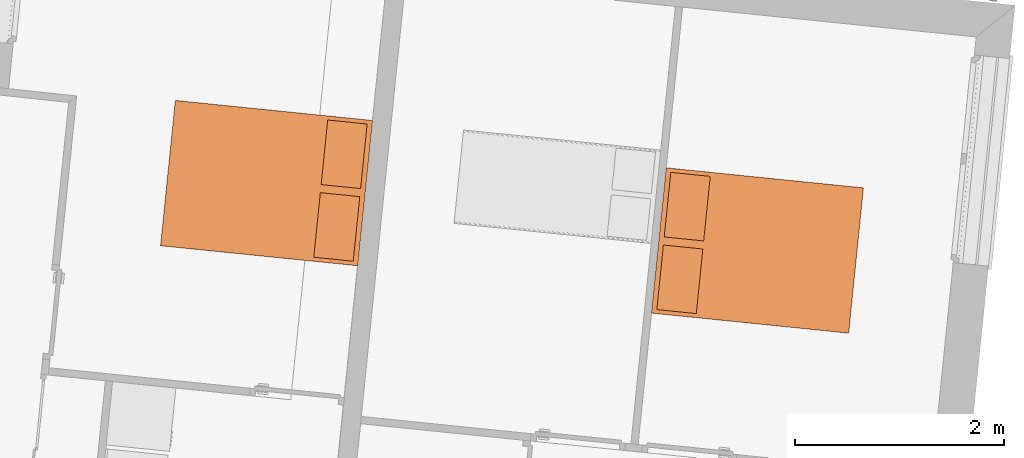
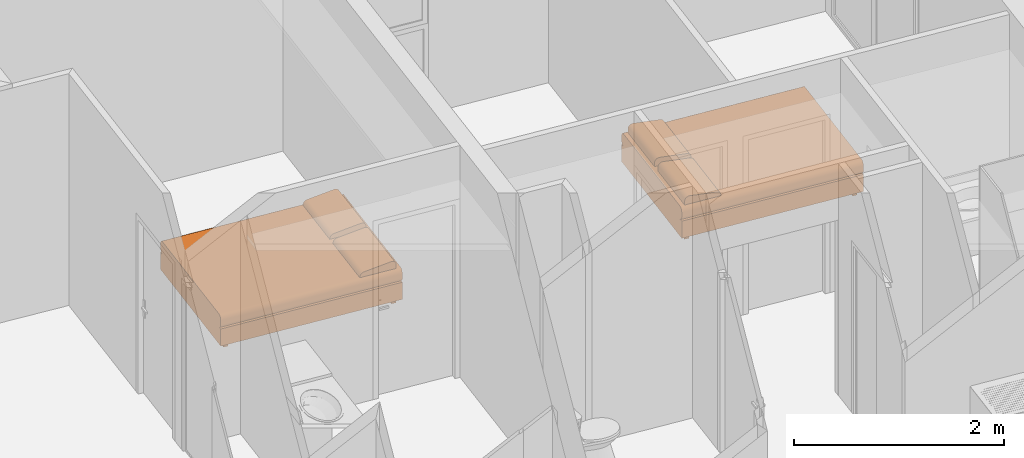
# One storey, part 160 of 164: 2 proxies.
"""IFC2X3 building model written with IfcOpenShell, lengths in millimetres."""

from ifc_helpers import new_model, entity, si_unit, converted_unit, derived_unit, money_unit, direction, frame, origin_with_axes, place, context, subcontext, project, spatial, open_shell, faceted_brep, surface_model, source, transform, mapped, type_object, element, save


model = new_model("IFC2X3")

# Units and contexts
model_context = context("Model", 3, precision=0.01, world=origin_with_axes(), true_north=direction((0.0, 1.0)))
body_context = subcontext(model_context, "Body", "Model", "MODEL_VIEW")
ifc_project = project(units=[si_unit("LENGTHUNIT", "METRE", prefix="MILLI"), si_unit("AREAUNIT", "SQUARE_METRE"), si_unit("VOLUMEUNIT", "CUBIC_METRE"), converted_unit("PLANEANGLEUNIT", "DEGREE", entity("IfcPlaneAngleMeasure", 0.0174532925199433), si_unit("PLANEANGLEUNIT", "RADIAN"), dimensions=[0, 0, 0, 0, 0, 0, 0]), money_unit("USD"), converted_unit("TIMEUNIT", "Year", entity("IfcTimeMeasure", 31557600.0), si_unit("TIMEUNIT", "SECOND"), dimensions=[0, 0, 1, 0, 0, 0, 0]), si_unit("MASSUNIT", "GRAM", prefix="KILO"), si_unit("THERMODYNAMICTEMPERATUREUNIT", "DEGREE_CELSIUS"), si_unit("LUMINOUSINTENSITYUNIT", "LUMEN"), si_unit("ENERGYUNIT", "JOULE", prefix="MEGA"), derived_unit("THERMALCONDUCTANCEUNIT", [(si_unit("POWERUNIT", "WATT"), 1), (si_unit("LENGTHUNIT", "METRE"), -1), (si_unit("THERMODYNAMICTEMPERATUREUNIT", "KELVIN"), -1)]), derived_unit("SPECIFICHEATCAPACITYUNIT", [(si_unit("ENERGYUNIT", "JOULE"), 1), (si_unit("MASSUNIT", "GRAM", prefix="KILO"), -1), (si_unit("THERMODYNAMICTEMPERATUREUNIT", "KELVIN"), -1)]), derived_unit("MASSDENSITYUNIT", [(si_unit("MASSUNIT", "GRAM", prefix="KILO"), 1), (si_unit("VOLUMEUNIT", "CUBIC_METRE"), -1)])], contexts=[model_context])

# Site, building, storey
site_placement = place(None, origin_with_axes())
site = spatial("IfcSite", under=ifc_project, at=site_placement, Name="Site", CompositionType="ELEMENT")
building_placement = place(site_placement, origin_with_axes())
building = spatial("IfcBuilding", under=site, at=building_placement, Name="Bâtiment", CompositionType="ELEMENT")
storey_placement = place(building_placement, frame((0.0, 0.0, 5750.0), z_axis=(0.0, 0.0, 1.0), x_axis=(1.0, 0.0, 0.0)))
storey = spatial("IfcBuildingStorey", under=building, at=storey_placement, Name="Etage1", CompositionType="ELEMENT", Elevation=5750.0)

# Proxies
building_element_proxy_type = type_object("IfcBuildingElementProxyType", PredefinedType="NOTDEFINED")
shared_shape_1 = source(origin_with_axes(), body_context, "Body", "SurfaceModel", [
    faceted_brep([(-622.2222222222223, -95.0, 0.0), (-661.1111111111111, -95.0, 0.0), (-661.1111111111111, -47.5, 0.0), (-622.2222222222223, -47.5, 0.0), (-622.2222222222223, -95.0, 50.0), (-661.1111111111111, -95.0, 50.0), (-661.1111111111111, -47.5, 50.0), (-622.2222222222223, -47.5, 50.0)], [[[0, 1, 2, 3]], [[1, 0, 4, 5]], [[2, 1, 5, 6]], [[3, 2, 6, 7]], [[0, 3, 7, 4]], [[5, 4, 7, 6]]]),
    faceted_brep([(-622.2222222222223, -1852.5, 0.0), (-661.1111111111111, -1852.5, 0.0), (-661.1111111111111, -1805.0, 0.0), (-622.2222222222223, -1805.0, 0.0), (-622.2222222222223, -1852.5, 50.0), (-661.1111111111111, -1852.5, 50.0), (-661.1111111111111, -1805.0, 50.0), (-622.2222222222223, -1805.0, 50.0)], [[[0, 1, 2, 3]], [[1, 0, 4, 5]], [[2, 1, 5, 6]], [[3, 2, 6, 7]], [[0, 3, 7, 4]], [[5, 4, 7, 6]]]),
    faceted_brep([(661.111111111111, -1852.5, 0.0), (622.2222222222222, -1852.5, 0.0), (622.2222222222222, -1805.0, 0.0), (661.111111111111, -1805.0, 0.0), (661.111111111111, -1852.5, 50.0), (622.2222222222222, -1852.5, 50.0), (622.2222222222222, -1805.0, 50.0), (661.111111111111, -1805.0, 50.0)], [[[0, 1, 2, 3]], [[1, 0, 4, 5]], [[2, 1, 5, 6]], [[3, 2, 6, 7]], [[0, 3, 7, 4]], [[5, 4, 7, 6]]]),
    faceted_brep([(661.111111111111, -94.99999999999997, 0.0), (622.2222222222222, -94.99999999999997, 0.0), (622.2222222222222, -47.49999999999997, 0.0), (661.111111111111, -47.49999999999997, 0.0), (661.111111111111, -94.99999999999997, 50.0), (622.2222222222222, -94.99999999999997, 50.0), (622.2222222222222, -47.49999999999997, 50.0), (661.111111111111, -47.49999999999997, 50.0)], [[[0, 1, 2, 3]], [[1, 0, 4, 5]], [[2, 1, 5, 6]], [[3, 2, 6, 7]], [[0, 3, 7, 4]], [[5, 4, 7, 6]]]),
    faceted_brep([(-700.0, 0.0, 50.0), (700.0, 0.0, 50.0), (700.0, -1900.0, 50.00000000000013), (-700.0, -1900.0, 50.00000000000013), (-700.0, 0.0, 250.0), (700.0, 0.0, 250.0), (700.0, -1900.0, 250.0000000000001), (-700.0, -1900.0, 250.0000000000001)], [[[0, 1, 2, 3]], [[0, 4, 5, 1]], [[1, 5, 6, 2]], [[3, 2, 6, 7]], [[4, 0, 3, 7]], [[5, 4, 7, 6]]]),
    surface_model("IfcShellBasedSurfaceModel", [(661.1111111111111, 0.0, 250.0), (667.8640957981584, 0.0, 250.7596123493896), (667.8640957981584, -1900.0, 250.7596123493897), (661.1111111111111, -1900.0, 250.0000000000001), (-661.1111111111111, 0.0, 250.0), (-667.8640957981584, 0.0, 250.7596123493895), (-674.4118944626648, 0.0, 253.0153689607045), (-680.5555555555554, 0.0, 256.698729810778), (-686.1084070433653, 0.0, 261.6977778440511), (-690.9017283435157, 0.0, 267.860619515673), (-694.7898768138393, 0.0, 275.0), (-697.654713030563, 0.0, 282.8989928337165), (-699.4091903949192, 0.0, 291.3175911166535), (-700.0, 0.0, 300.0000000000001), (-700.0000000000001, 0.0, 350.0), (-699.4091903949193, 0.0, 358.6824088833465), (-697.654713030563, 0.0, 367.1010071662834), (-694.7898768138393, 0.0, 375.0), (-690.9017283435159, 0.0, 382.139380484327), (-686.1084070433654, 0.0, 388.3022221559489), (-680.5555555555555, 0.0, 393.301270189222), (-674.4118944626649, 0.0, 396.9846310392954), (-667.8640957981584, 0.0, 399.2403876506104), (-661.1111111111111, 0.0, 400.0), (661.111111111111, 0.0, 400.0000000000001), (667.8640957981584, 0.0, 399.2403876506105), (674.4118944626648, 0.0, 396.9846310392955), (680.5555555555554, 0.0, 393.301270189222), (686.1084070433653, 0.0, 388.3022221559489), (690.9017283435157, 0.0, 382.139380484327), (694.7898768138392, 0.0, 375.0000000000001), (697.654713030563, 0.0, 367.1010071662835), (699.4091903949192, 0.0, 358.6824088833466), (700.0, 0.0, 350.0000000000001), (700.0, 0.0, 300.0000000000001), (699.4091903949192, 0.0, 291.3175911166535), (697.654713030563, 0.0, 282.8989928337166), (694.7898768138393, 0.0, 275.0), (690.9017283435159, 0.0, 267.8606195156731), (686.1084070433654, 0.0, 261.6977778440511), (680.5555555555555, 0.0, 256.698729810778), (674.4118944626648, 0.0, 253.0153689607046), (674.4118944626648, -1900.0, 253.0153689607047), (-661.1111111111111, -1900.0, 250.0000000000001), (680.5555555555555, -1900.0, 256.6987298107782), (686.1084070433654, -1900.0, 261.6977778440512), (690.9017283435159, -1900.0, 267.8606195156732), (694.7898768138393, -1900.0, 275.0000000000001), (697.654713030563, -1900.0, 282.8989928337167), (699.4091903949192, -1900.0, 291.3175911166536), (700.0, -1900.0, 300.0000000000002), (700.0, -1900.0, 350.0000000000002), (699.4091903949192, -1900.0, 358.6824088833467), (697.654713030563, -1900.0, 367.1010071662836), (694.7898768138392, -1900.0, 375.0000000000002), (690.9017283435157, -1900.0, 382.1393804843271), (686.1084070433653, -1900.0, 388.302222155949), (680.5555555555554, -1900.0, 393.3012701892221), (674.4118944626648, -1900.0, 396.9846310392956), (667.8640957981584, -1900.0, 399.2403876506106), (661.111111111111, -1900.0, 400.0000000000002), (-661.1111111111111, -1900.0, 400.0000000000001), (-667.8640957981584, -1900.0, 399.2403876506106), (-674.4118944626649, -1900.0, 396.9846310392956), (-680.5555555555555, -1900.0, 393.3012701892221), (-686.1084070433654, -1900.0, 388.302222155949), (-690.9017283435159, -1900.0, 382.1393804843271), (-694.7898768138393, -1900.0, 375.0000000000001), (-697.654713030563, -1900.0, 367.1010071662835), (-699.4091903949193, -1900.0, 358.6824088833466), (-700.0000000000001, -1900.0, 350.0000000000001), (-700.0, -1900.0, 300.0000000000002), (-699.4091903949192, -1900.0, 291.3175911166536), (-697.654713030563, -1900.0, 282.8989928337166), (-694.7898768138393, -1900.0, 275.0000000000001), (-690.9017283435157, -1900.0, 267.8606195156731), (-686.1084070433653, -1900.0, 261.6977778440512), (-680.5555555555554, -1900.0, 256.6987298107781), (-674.4118944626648, -1900.0, 253.0153689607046), (-667.8640957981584, -1900.0, 250.7596123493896)], [open_shell([[[0, 1, 2, 3]], [[4, 5, 6, 7, 8, 9, 10, 11, 12, 13, 14, 15, 16, 17, 18, 19, 20, 21, 22, 23, 24, 25, 26, 27, 28, 29, 30, 31, 32, 33, 34, 35, 36, 37, 38, 39, 40, 41, 1, 0]], [[1, 41, 42, 2]], [[43, 3, 2, 42, 44, 45, 46, 47, 48, 49, 50, 51, 52, 53, 54, 55, 56, 57, 58, 59, 60, 61, 62, 63, 64, 65, 66, 67, 68, 69, 70, 71, 72, 73, 74, 75, 76, 77, 78, 79]], [[5, 4, 43, 79]], [[6, 5, 79, 78]], [[7, 6, 78, 77]], [[8, 7, 77, 76]], [[9, 8, 76, 75]], [[10, 9, 75, 74]], [[11, 10, 74, 73]], [[12, 11, 73, 72]], [[13, 12, 72, 71]], [[14, 13, 71, 70]], [[15, 14, 70, 69]], [[16, 15, 69, 68]], [[17, 16, 68, 67]], [[18, 17, 67, 66]], [[19, 18, 66, 65]], [[20, 19, 65, 64]], [[21, 20, 64, 63]], [[22, 21, 63, 62]], [[23, 22, 62, 61]], [[24, 23, 61, 60]], [[25, 24, 60, 59]], [[26, 25, 59, 58]], [[27, 26, 58, 57]], [[28, 27, 57, 56]], [[29, 28, 56, 55]], [[30, 29, 55, 54]], [[31, 30, 54, 53]], [[32, 31, 53, 52]], [[33, 32, 52, 51]], [[34, 33, 51, 50]], [[35, 34, 50, 49]], [[36, 35, 49, 48]], [[37, 36, 48, 47]], [[38, 37, 47, 46]], [[39, 38, 46, 45]], [[40, 39, 45, 44]], [[41, 40, 44, 42]]])]),
    faceted_brep([(38.88888888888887, -47.49999999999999, 400.0), (38.88888888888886, -47.49999999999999, 443.4), (661.1111111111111, -47.50000000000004, 443.4000000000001), (661.1111111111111, -47.50000000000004, 400.0000000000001), (38.88888888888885, -427.5, 400.0), (38.88888888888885, -427.6960812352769, 408.695442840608), (38.88888888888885, -426.4675711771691, 417.2966661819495), (38.88888888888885, -423.8511300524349, 425.5469991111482), (38.88888888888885, -419.9248356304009, 433.2002417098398), (38.88888888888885, -414.8058532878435, 440.0280119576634), (38.88888888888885, -408.6469396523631, 445.826560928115), (38.88888888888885, -401.6318841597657, 450.4228529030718), (38.88888888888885, -393.9700245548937, 453.6797289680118), (38.88888888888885, -385.89, 455.5), (38.88888888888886, -100.89, 493.0000000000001), (38.88888888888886, -92.85488048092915, 493.3370808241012), (38.88888888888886, -84.88093291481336, 492.2422169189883), (38.88888888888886, -77.19681007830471, 489.7468034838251), (38.88888888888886, -70.02285403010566, 485.922396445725), (38.88888888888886, -63.56477780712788, 480.878660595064), (38.88888888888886, -58.00776660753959, 474.7602249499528), (38.88888888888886, -53.51116760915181, 467.7425355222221), (38.88888888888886, -50.20392069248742, 460.0268244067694), (38.88888888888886, -48.18086109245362, 451.834339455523), (661.1111111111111, -48.18086109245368, 451.8343394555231), (661.1111111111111, -50.20392069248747, 460.0268244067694), (661.1111111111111, -53.51116760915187, 467.7425355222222), (661.1111111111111, -58.00776660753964, 474.7602249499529), (661.1111111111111, -63.56477780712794, 480.878660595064), (661.1111111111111, -70.02285403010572, 485.922396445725), (661.1111111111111, -77.19681007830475, 489.7468034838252), (661.1111111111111, -84.88093291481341, 492.2422169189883), (661.1111111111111, -92.85488048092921, 493.3370808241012), (661.1111111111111, -100.8900000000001, 493.0000000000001), (661.1111111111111, -385.89, 455.5000000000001), (661.1111111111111, -393.9700245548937, 453.6797289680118), (661.1111111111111, -401.6318841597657, 450.4228529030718), (661.1111111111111, -408.6469396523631, 445.826560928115), (661.1111111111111, -414.8058532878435, 440.0280119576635), (661.1111111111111, -419.924835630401, 433.2002417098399), (661.1111111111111, -423.8511300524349, 425.5469991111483), (661.1111111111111, -426.4675711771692, 417.2966661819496), (661.1111111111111, -427.6960812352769, 408.6954428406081), (661.1111111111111, -427.5, 400.0000000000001)], [[[0, 1, 2, 3]], [[0, 4, 5, 6, 7, 8, 9, 10, 11, 12, 13, 14, 15, 16, 17, 18, 19, 20, 21, 22, 23, 1]], [[1, 23, 24, 2]], [[3, 2, 24, 25, 26, 27, 28, 29, 30, 31, 32, 33, 34, 35, 36, 37, 38, 39, 40, 41, 42, 43]], [[4, 0, 3, 43]], [[5, 4, 43, 42]], [[6, 5, 42, 41]], [[7, 6, 41, 40]], [[8, 7, 40, 39]], [[9, 8, 39, 38]], [[10, 9, 38, 37]], [[11, 10, 37, 36]], [[12, 11, 36, 35]], [[13, 12, 35, 34]], [[14, 13, 34, 33]], [[15, 14, 33, 32]], [[16, 15, 32, 31]], [[17, 16, 31, 30]], [[18, 17, 30, 29]], [[19, 18, 29, 28]], [[20, 19, 28, 27]], [[21, 20, 27, 26]], [[22, 21, 26, 25]], [[23, 22, 25, 24]]]),
    faceted_brep([(-661.1111111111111, -47.49999999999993, 399.9999999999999), (-661.1111111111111, -47.49999999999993, 443.4), (-38.88888888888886, -47.49999999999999, 443.4), (-38.88888888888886, -47.49999999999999, 400.0), (-661.1111111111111, -427.4999999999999, 399.9999999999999), (-661.1111111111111, -427.6960812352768, 408.6954428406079), (-661.1111111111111, -426.4675711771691, 417.2966661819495), (-661.1111111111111, -423.8511300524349, 425.5469991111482), (-661.1111111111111, -419.9248356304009, 433.2002417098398), (-661.1111111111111, -414.8058532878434, 440.0280119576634), (-661.1111111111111, -408.646939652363, 445.8265609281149), (-661.1111111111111, -401.6318841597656, 450.4228529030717), (-661.1111111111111, -393.9700245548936, 453.6797289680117), (-661.1111111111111, -385.8899999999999, 455.4999999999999), (-661.1111111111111, -100.89, 493.0), (-661.1111111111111, -92.8548804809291, 493.3370808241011), (-661.1111111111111, -84.8809329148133, 492.2422169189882), (-661.1111111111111, -77.19681007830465, 489.7468034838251), (-661.1111111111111, -70.0228540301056, 485.9223964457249), (-661.1111111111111, -63.56477780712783, 480.8786605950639), (-661.1111111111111, -58.00776660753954, 474.7602249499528), (-661.1111111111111, -53.51116760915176, 467.7425355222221), (-661.1111111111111, -50.20392069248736, 460.0268244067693), (-661.1111111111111, -48.18086109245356, 451.834339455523), (-38.88888888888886, -48.18086109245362, 451.834339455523), (-38.88888888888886, -50.20392069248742, 460.0268244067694), (-38.88888888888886, -53.51116760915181, 467.7425355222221), (-38.88888888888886, -58.00776660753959, 474.7602249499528), (-38.88888888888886, -63.56477780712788, 480.878660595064), (-38.88888888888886, -70.02285403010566, 485.922396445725), (-38.88888888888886, -77.19681007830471, 489.7468034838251), (-38.88888888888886, -84.88093291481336, 492.2422169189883), (-38.88888888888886, -92.85488048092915, 493.3370808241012), (-38.88888888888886, -100.89, 493.0000000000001), (-38.88888888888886, -385.8899999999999, 455.5), (-38.88888888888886, -393.9700245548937, 453.6797289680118), (-38.88888888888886, -401.6318841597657, 450.4228529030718), (-38.88888888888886, -408.6469396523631, 445.826560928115), (-38.88888888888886, -414.8058532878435, 440.0280119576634), (-38.88888888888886, -419.9248356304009, 433.2002417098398), (-38.88888888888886, -423.8511300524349, 425.5469991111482), (-38.88888888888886, -426.4675711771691, 417.2966661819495), (-38.88888888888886, -427.6960812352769, 408.695442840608), (-38.88888888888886, -427.4999999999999, 400.0)], [[[0, 1, 2, 3]], [[0, 4, 5, 6, 7, 8, 9, 10, 11, 12, 13, 14, 15, 16, 17, 18, 19, 20, 21, 22, 23, 1]], [[1, 23, 24, 2]], [[3, 2, 24, 25, 26, 27, 28, 29, 30, 31, 32, 33, 34, 35, 36, 37, 38, 39, 40, 41, 42, 43]], [[4, 0, 3, 43]], [[5, 4, 43, 42]], [[6, 5, 42, 41]], [[7, 6, 41, 40]], [[8, 7, 40, 39]], [[9, 8, 39, 38]], [[10, 9, 38, 37]], [[11, 10, 37, 36]], [[12, 11, 36, 35]], [[13, 12, 35, 34]], [[14, 13, 34, 33]], [[15, 14, 33, 32]], [[16, 15, 32, 31]], [[17, 16, 31, 30]], [[18, 17, 30, 29]], [[19, 18, 29, 28]], [[20, 19, 28, 27]], [[21, 20, 27, 26]], [[22, 21, 26, 25]], [[23, 22, 25, 24]]]),
])
proxy_1_placement = place(storey_placement, frame((2233952.513834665, -608036.7904607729, 0.0), z_axis=(0.0, 0.0, 1.0), x_axis=(-0.1011033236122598, -0.9948759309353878, 0.0)))
element("IfcBuildingElementProxy", 1, at=proxy_1_placement, inside=storey, type_object=building_element_proxy_type, Name="Obj.-003", context=body_context, shape_type="MappedRepresentation", body=[
    mapped(shared_shape_1, transform((0.0, 0.0, 0.0))),
])
shared_shape_2 = source(origin_with_axes(), body_context, "Body", "SurfaceModel", [
    faceted_brep([(622.2222222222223, -95.0, 0.0), (622.2222222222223, -47.5, 0.0), (661.1111111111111, -47.5, 0.0), (661.1111111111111, -95.0, 0.0), (622.2222222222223, -95.0, 50.0), (622.2222222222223, -47.5, 50.0), (661.1111111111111, -47.5, 50.0), (661.1111111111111, -95.0, 50.0)], [[[0, 1, 2, 3]], [[0, 4, 5, 1]], [[1, 5, 6, 2]], [[2, 6, 7, 3]], [[3, 7, 4, 0]], [[7, 6, 5, 4]]]),
    faceted_brep([(622.2222222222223, -1852.5, 0.0), (622.2222222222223, -1805.0, 0.0), (661.1111111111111, -1805.0, 0.0), (661.1111111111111, -1852.5, 0.0), (622.2222222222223, -1852.5, 50.0), (622.2222222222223, -1805.0, 50.0), (661.1111111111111, -1805.0, 50.0), (661.1111111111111, -1852.5, 50.0)], [[[0, 1, 2, 3]], [[0, 4, 5, 1]], [[1, 5, 6, 2]], [[2, 6, 7, 3]], [[3, 7, 4, 0]], [[7, 6, 5, 4]]]),
    faceted_brep([(-661.111111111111, -1852.5, 0.0), (-661.111111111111, -1805.0, 0.0), (-622.2222222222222, -1805.0, 0.0), (-622.2222222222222, -1852.5, 0.0), (-661.111111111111, -1852.5, 50.0), (-661.111111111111, -1805.0, 50.0), (-622.2222222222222, -1805.0, 50.0), (-622.2222222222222, -1852.5, 50.0)], [[[0, 1, 2, 3]], [[0, 4, 5, 1]], [[1, 5, 6, 2]], [[2, 6, 7, 3]], [[3, 7, 4, 0]], [[7, 6, 5, 4]]]),
    faceted_brep([(-661.111111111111, -94.99999999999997, 0.0), (-661.111111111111, -47.49999999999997, 0.0), (-622.2222222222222, -47.49999999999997, 0.0), (-622.2222222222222, -94.99999999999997, 0.0), (-661.111111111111, -94.99999999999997, 50.0), (-661.111111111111, -47.49999999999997, 50.0), (-622.2222222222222, -47.49999999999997, 50.0), (-622.2222222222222, -94.99999999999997, 50.0)], [[[0, 1, 2, 3]], [[0, 4, 5, 1]], [[1, 5, 6, 2]], [[2, 6, 7, 3]], [[3, 7, 4, 0]], [[7, 6, 5, 4]]]),
    faceted_brep([(700.0, 0.0, 50.0), (700.0, -1900.0, 50.00000000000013), (-700.0, -1900.0, 50.00000000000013), (-700.0, 0.0, 50.0), (700.0, 0.0, 250.0), (700.0, -1900.0, 250.0000000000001), (-700.0, -1900.0, 250.0000000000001), (-700.0, 0.0, 250.0)], [[[0, 1, 2, 3]], [[4, 5, 1, 0]], [[1, 5, 6, 2]], [[3, 2, 6, 7]], [[0, 3, 7, 4]], [[7, 6, 5, 4]]]),
    surface_model("IfcShellBasedSurfaceModel", [(-661.1111111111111, 0.0, 250.0), (-661.1111111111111, -1900.0, 250.0000000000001), (-667.8640957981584, -1900.0, 250.7596123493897), (-667.8640957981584, 0.0, 250.7596123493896), (661.1111111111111, -1900.0, 250.0000000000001), (667.8640957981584, -1900.0, 250.7596123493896), (674.4118944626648, -1900.0, 253.0153689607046), (680.5555555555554, -1900.0, 256.6987298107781), (686.1084070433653, -1900.0, 261.6977778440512), (690.9017283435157, -1900.0, 267.8606195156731), (694.7898768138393, -1900.0, 275.0000000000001), (697.654713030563, -1900.0, 282.8989928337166), (699.4091903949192, -1900.0, 291.3175911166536), (700.0, -1900.0, 300.0000000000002), (700.0000000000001, -1900.0, 350.0000000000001), (699.4091903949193, -1900.0, 358.6824088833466), (697.654713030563, -1900.0, 367.1010071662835), (694.7898768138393, -1900.0, 375.0000000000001), (690.9017283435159, -1900.0, 382.1393804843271), (686.1084070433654, -1900.0, 388.302222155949), (680.5555555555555, -1900.0, 393.3012701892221), (674.4118944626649, -1900.0, 396.9846310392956), (667.8640957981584, -1900.0, 399.2403876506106), (661.1111111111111, -1900.0, 400.0000000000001), (-661.111111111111, -1900.0, 400.0000000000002), (-667.8640957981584, -1900.0, 399.2403876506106), (-674.4118944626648, -1900.0, 396.9846310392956), (-680.5555555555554, -1900.0, 393.3012701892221), (-686.1084070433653, -1900.0, 388.302222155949), (-690.9017283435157, -1900.0, 382.1393804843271), (-694.7898768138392, -1900.0, 375.0000000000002), (-697.654713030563, -1900.0, 367.1010071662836), (-699.4091903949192, -1900.0, 358.6824088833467), (-700.0, -1900.0, 350.0000000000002), (-700.0, -1900.0, 300.0000000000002), (-699.4091903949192, -1900.0, 291.3175911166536), (-697.654713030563, -1900.0, 282.8989928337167), (-694.7898768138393, -1900.0, 275.0000000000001), (-690.9017283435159, -1900.0, 267.8606195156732), (-686.1084070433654, -1900.0, 261.6977778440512), (-680.5555555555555, -1900.0, 256.6987298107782), (-674.4118944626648, -1900.0, 253.0153689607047), (-674.4118944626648, 0.0, 253.0153689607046), (661.1111111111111, 0.0, 250.0), (-680.5555555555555, 0.0, 256.698729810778), (-686.1084070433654, 0.0, 261.6977778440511), (-690.9017283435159, 0.0, 267.8606195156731), (-694.7898768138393, 0.0, 275.0), (-697.654713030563, 0.0, 282.8989928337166), (-699.4091903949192, 0.0, 291.3175911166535), (-700.0, 0.0, 300.0000000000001), (-700.0, 0.0, 350.0000000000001), (-699.4091903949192, 0.0, 358.6824088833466), (-697.654713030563, 0.0, 367.1010071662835), (-694.7898768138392, 0.0, 375.0000000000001), (-690.9017283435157, 0.0, 382.139380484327), (-686.1084070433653, 0.0, 388.3022221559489), (-680.5555555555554, 0.0, 393.301270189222), (-674.4118944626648, 0.0, 396.9846310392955), (-667.8640957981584, 0.0, 399.2403876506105), (-661.111111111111, 0.0, 400.0000000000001), (661.1111111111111, 0.0, 400.0), (667.8640957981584, 0.0, 399.2403876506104), (674.4118944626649, 0.0, 396.9846310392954), (680.5555555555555, 0.0, 393.301270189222), (686.1084070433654, 0.0, 388.3022221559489), (690.9017283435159, 0.0, 382.139380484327), (694.7898768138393, 0.0, 375.0), (697.654713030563, 0.0, 367.1010071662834), (699.4091903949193, 0.0, 358.6824088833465), (700.0000000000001, 0.0, 350.0), (700.0, 0.0, 300.0000000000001), (699.4091903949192, 0.0, 291.3175911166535), (697.654713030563, 0.0, 282.8989928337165), (694.7898768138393, 0.0, 275.0), (690.9017283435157, 0.0, 267.860619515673), (686.1084070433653, 0.0, 261.6977778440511), (680.5555555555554, 0.0, 256.698729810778), (674.4118944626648, 0.0, 253.0153689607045), (667.8640957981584, 0.0, 250.7596123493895)], [open_shell([[[0, 1, 2, 3]], [[4, 5, 6, 7, 8, 9, 10, 11, 12, 13, 14, 15, 16, 17, 18, 19, 20, 21, 22, 23, 24, 25, 26, 27, 28, 29, 30, 31, 32, 33, 34, 35, 36, 37, 38, 39, 40, 41, 2, 1]], [[3, 2, 41, 42]], [[43, 0, 3, 42, 44, 45, 46, 47, 48, 49, 50, 51, 52, 53, 54, 55, 56, 57, 58, 59, 60, 61, 62, 63, 64, 65, 66, 67, 68, 69, 70, 71, 72, 73, 74, 75, 76, 77, 78, 79]], [[79, 5, 4, 43]], [[78, 6, 5, 79]], [[77, 7, 6, 78]], [[76, 8, 7, 77]], [[75, 9, 8, 76]], [[74, 10, 9, 75]], [[73, 11, 10, 74]], [[72, 12, 11, 73]], [[71, 13, 12, 72]], [[70, 14, 13, 71]], [[69, 15, 14, 70]], [[68, 16, 15, 69]], [[67, 17, 16, 68]], [[66, 18, 17, 67]], [[65, 19, 18, 66]], [[64, 20, 19, 65]], [[63, 21, 20, 64]], [[62, 22, 21, 63]], [[61, 23, 22, 62]], [[60, 24, 23, 61]], [[59, 25, 24, 60]], [[58, 26, 25, 59]], [[57, 27, 26, 58]], [[56, 28, 27, 57]], [[55, 29, 28, 56]], [[54, 30, 29, 55]], [[53, 31, 30, 54]], [[52, 32, 31, 53]], [[51, 33, 32, 52]], [[50, 34, 33, 51]], [[49, 35, 34, 50]], [[48, 36, 35, 49]], [[47, 37, 36, 48]], [[46, 38, 37, 47]], [[45, 39, 38, 46]], [[44, 40, 39, 45]], [[42, 41, 40, 44]]])]),
    faceted_brep([(-38.88888888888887, -47.49999999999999, 400.0), (-661.1111111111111, -47.50000000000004, 400.0000000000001), (-661.1111111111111, -47.50000000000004, 443.4000000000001), (-38.88888888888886, -47.49999999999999, 443.4), (-38.88888888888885, -427.5, 400.0), (-661.1111111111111, -427.5, 400.0000000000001), (-661.1111111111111, -427.6960812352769, 408.6954428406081), (-661.1111111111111, -426.4675711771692, 417.2966661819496), (-661.1111111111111, -423.8511300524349, 425.5469991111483), (-661.1111111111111, -419.924835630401, 433.2002417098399), (-661.1111111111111, -414.8058532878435, 440.0280119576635), (-661.1111111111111, -408.6469396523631, 445.826560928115), (-661.1111111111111, -401.6318841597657, 450.4228529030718), (-661.1111111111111, -393.9700245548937, 453.6797289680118), (-661.1111111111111, -385.89, 455.5000000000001), (-661.1111111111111, -100.8900000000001, 493.0000000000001), (-661.1111111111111, -92.85488048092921, 493.3370808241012), (-661.1111111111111, -84.88093291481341, 492.2422169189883), (-661.1111111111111, -77.19681007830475, 489.7468034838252), (-661.1111111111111, -70.02285403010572, 485.922396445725), (-661.1111111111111, -63.56477780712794, 480.878660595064), (-661.1111111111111, -58.00776660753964, 474.7602249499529), (-661.1111111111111, -53.51116760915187, 467.7425355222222), (-661.1111111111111, -50.20392069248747, 460.0268244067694), (-661.1111111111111, -48.18086109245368, 451.8343394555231), (-38.88888888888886, -48.18086109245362, 451.834339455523), (-38.88888888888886, -50.20392069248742, 460.0268244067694), (-38.88888888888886, -53.51116760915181, 467.7425355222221), (-38.88888888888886, -58.00776660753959, 474.7602249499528), (-38.88888888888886, -63.56477780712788, 480.878660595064), (-38.88888888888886, -70.02285403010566, 485.922396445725), (-38.88888888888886, -77.19681007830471, 489.7468034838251), (-38.88888888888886, -84.88093291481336, 492.2422169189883), (-38.88888888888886, -92.85488048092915, 493.3370808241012), (-38.88888888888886, -100.89, 493.0000000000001), (-38.88888888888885, -385.89, 455.5), (-38.88888888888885, -393.9700245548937, 453.6797289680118), (-38.88888888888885, -401.6318841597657, 450.4228529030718), (-38.88888888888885, -408.6469396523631, 445.826560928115), (-38.88888888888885, -414.8058532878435, 440.0280119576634), (-38.88888888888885, -419.9248356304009, 433.2002417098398), (-38.88888888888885, -423.8511300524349, 425.5469991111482), (-38.88888888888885, -426.4675711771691, 417.2966661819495), (-38.88888888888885, -427.6960812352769, 408.695442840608)], [[[0, 1, 2, 3]], [[4, 5, 1, 0]], [[1, 5, 6, 7, 8, 9, 10, 11, 12, 13, 14, 15, 16, 17, 18, 19, 20, 21, 22, 23, 24, 2]], [[3, 2, 24, 25]], [[0, 3, 25, 26, 27, 28, 29, 30, 31, 32, 33, 34, 35, 36, 37, 38, 39, 40, 41, 42, 43, 4]], [[43, 6, 5, 4]], [[42, 7, 6, 43]], [[41, 8, 7, 42]], [[40, 9, 8, 41]], [[39, 10, 9, 40]], [[38, 11, 10, 39]], [[37, 12, 11, 38]], [[36, 13, 12, 37]], [[35, 14, 13, 36]], [[34, 15, 14, 35]], [[33, 16, 15, 34]], [[32, 17, 16, 33]], [[31, 18, 17, 32]], [[30, 19, 18, 31]], [[29, 20, 19, 30]], [[28, 21, 20, 29]], [[27, 22, 21, 28]], [[26, 23, 22, 27]], [[25, 24, 23, 26]]]),
    faceted_brep([(661.1111111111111, -47.49999999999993, 399.9999999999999), (38.88888888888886, -47.49999999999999, 400.0), (38.88888888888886, -47.49999999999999, 443.4), (661.1111111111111, -47.49999999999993, 443.4), (661.1111111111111, -427.4999999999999, 399.9999999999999), (38.88888888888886, -427.4999999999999, 400.0), (38.88888888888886, -427.6960812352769, 408.695442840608), (38.88888888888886, -426.4675711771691, 417.2966661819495), (38.88888888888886, -423.8511300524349, 425.5469991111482), (38.88888888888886, -419.9248356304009, 433.2002417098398), (38.88888888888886, -414.8058532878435, 440.0280119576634), (38.88888888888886, -408.6469396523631, 445.826560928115), (38.88888888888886, -401.6318841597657, 450.4228529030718), (38.88888888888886, -393.9700245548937, 453.6797289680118), (38.88888888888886, -385.8899999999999, 455.5), (38.88888888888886, -100.89, 493.0000000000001), (38.88888888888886, -92.85488048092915, 493.3370808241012), (38.88888888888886, -84.88093291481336, 492.2422169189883), (38.88888888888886, -77.19681007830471, 489.7468034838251), (38.88888888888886, -70.02285403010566, 485.922396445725), (38.88888888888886, -63.56477780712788, 480.878660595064), (38.88888888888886, -58.00776660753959, 474.7602249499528), (38.88888888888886, -53.51116760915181, 467.7425355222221), (38.88888888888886, -50.20392069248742, 460.0268244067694), (38.88888888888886, -48.18086109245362, 451.834339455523), (661.1111111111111, -48.18086109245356, 451.834339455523), (661.1111111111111, -50.20392069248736, 460.0268244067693), (661.1111111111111, -53.51116760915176, 467.7425355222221), (661.1111111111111, -58.00776660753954, 474.7602249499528), (661.1111111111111, -63.56477780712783, 480.8786605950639), (661.1111111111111, -70.0228540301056, 485.9223964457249), (661.1111111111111, -77.19681007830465, 489.7468034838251), (661.1111111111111, -84.8809329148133, 492.2422169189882), (661.1111111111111, -92.8548804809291, 493.3370808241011), (661.1111111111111, -100.89, 493.0), (661.1111111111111, -385.8899999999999, 455.4999999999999), (661.1111111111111, -393.9700245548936, 453.6797289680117), (661.1111111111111, -401.6318841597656, 450.4228529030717), (661.1111111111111, -408.646939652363, 445.8265609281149), (661.1111111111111, -414.8058532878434, 440.0280119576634), (661.1111111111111, -419.9248356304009, 433.2002417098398), (661.1111111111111, -423.8511300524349, 425.5469991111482), (661.1111111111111, -426.4675711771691, 417.2966661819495), (661.1111111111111, -427.6960812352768, 408.6954428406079)], [[[0, 1, 2, 3]], [[4, 5, 1, 0]], [[1, 5, 6, 7, 8, 9, 10, 11, 12, 13, 14, 15, 16, 17, 18, 19, 20, 21, 22, 23, 24, 2]], [[3, 2, 24, 25]], [[0, 3, 25, 26, 27, 28, 29, 30, 31, 32, 33, 34, 35, 36, 37, 38, 39, 40, 41, 42, 43, 4]], [[43, 6, 5, 4]], [[42, 7, 6, 43]], [[41, 8, 7, 42]], [[40, 9, 8, 41]], [[39, 10, 9, 40]], [[38, 11, 10, 39]], [[37, 12, 11, 38]], [[36, 13, 12, 37]], [[35, 14, 13, 36]], [[34, 15, 14, 35]], [[33, 16, 15, 34]], [[32, 17, 16, 33]], [[31, 18, 17, 32]], [[30, 19, 18, 31]], [[29, 20, 19, 30]], [[28, 21, 20, 29]], [[27, 22, 21, 28]], [[26, 23, 22, 27]], [[25, 24, 23, 26]]]),
])
proxy_2_placement = place(storey_placement, frame((2236768.419553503, -608490.6825500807, 0.0), z_axis=(0.0, 0.0, 1.0), x_axis=(0.1011033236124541, 0.9948759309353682, 0.0)))
element("IfcBuildingElementProxy", 2, at=proxy_2_placement, inside=storey, type_object=building_element_proxy_type, Name="Obj.-003", context=body_context, shape_type="MappedRepresentation", body=[
    mapped(shared_shape_2, transform((0.0, 0.0, 0.0))),
])

save(model, "model.ifc")
